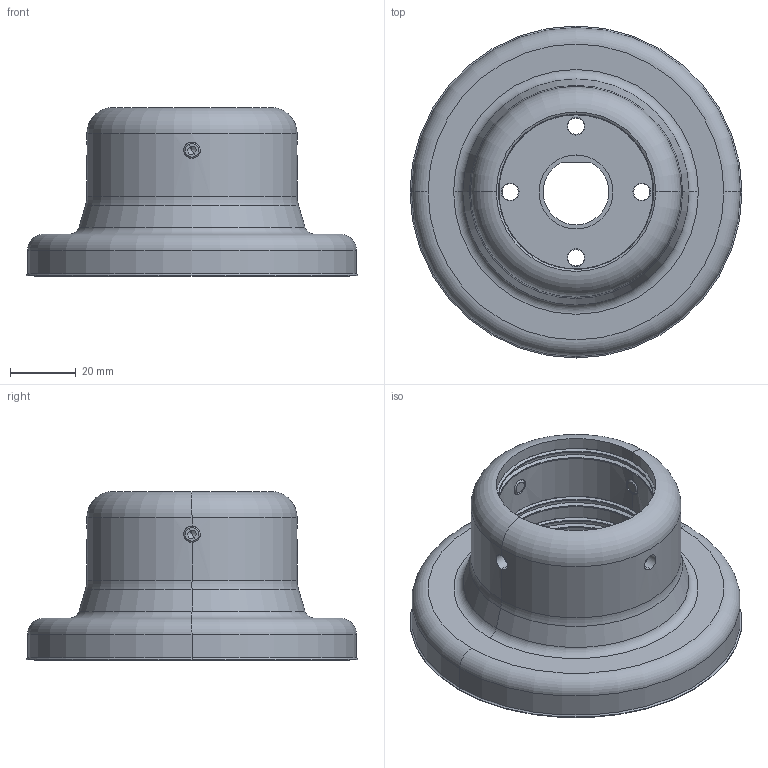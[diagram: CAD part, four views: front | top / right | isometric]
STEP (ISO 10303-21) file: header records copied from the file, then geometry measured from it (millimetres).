
FILE_DESCRIPTION (( 'STEP AP203' ), '1' );
FILE_NAME ('TXF_MT_02.step', '2023-10-10T17:27:30', ( '' ), ( '' ), 'SwSTEP 2.0', 'SolidWorks 2019', '' );
FILE_SCHEMA (( 'CONFIG_CONTROL_DESIGN' ));
Length unit declared in the file: millimetre
Products named in the file (1): TXF_MT_02
Bounding box: 101 x 101 x 51.4 mm (x, y, z)
Volume: 128181.1 mm3; surface area: 46765.9 mm2
Topology: 1 solids, 76 shells, 729 faces, 1534 edges, 982 vertices
Faces by surface type: plane 366, cylinder 237, cone 90, torus 36
Entity records: 20669 total; most frequent: CARTESIAN_POINT 4578, DIRECTION 3576, ORIENTED_EDGE 3028, EDGE_CURVE 1514, AXIS2_PLACEMENT_3D 1372, VERTEX_POINT 982, LINE 832, VECTOR 832
